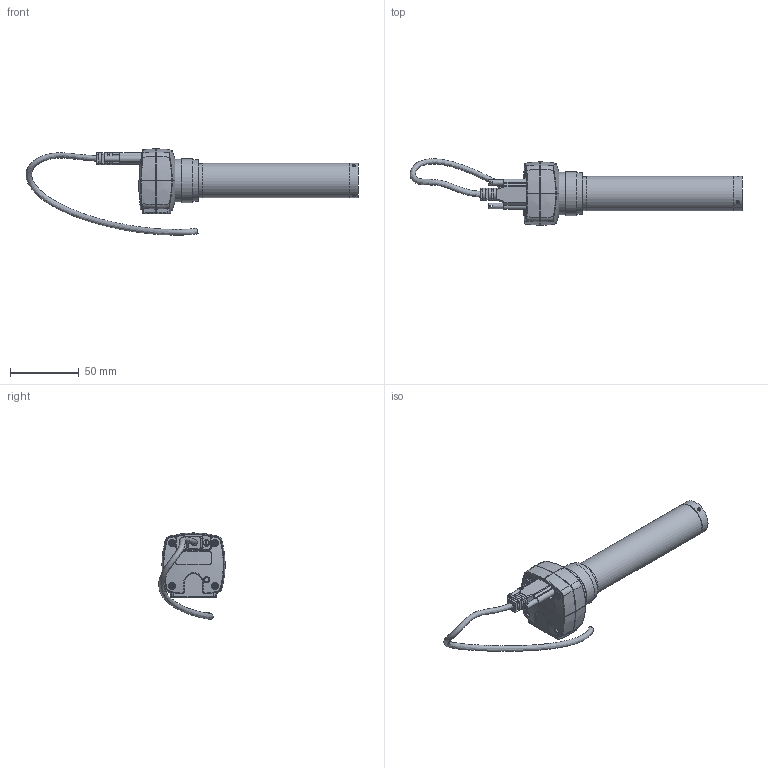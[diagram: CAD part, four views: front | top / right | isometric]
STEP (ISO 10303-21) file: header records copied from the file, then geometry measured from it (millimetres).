
FILE_DESCRIPTION(/* description */ (''),/* implementation_level */ '2;1');
FILE_NAME(/* name */ 'S:\Bureau-Technique\Vidéo\MA 730-110.stp',/* time_stamp */ '2017-03-30T08:45:59+02:00',/* author */ ('ms'),/* organization */ ('Marcel Aubert'),/* preprocessor_version */ 'ST-DEVELOPER v16.5',/* originating_system */ 'Autodesk Inventor 2017',/* authorisation */ '');
FILE_SCHEMA (('AUTOMOTIVE_DESIGN { 1 0 10303 214 3 1 1 }'));
Products named in the file (1): Pièce1
Bounding box: 241.2 x 48.29 x 62.66 mm (x, y, z)
Volume: 82463.7 mm3; surface area: 34753.2 mm2
Topology: 1 solids, 9 shells, 704 faces, 1811 edges, 1178 vertices
Faces by surface type: plane 275, cylinder 208, bspline 125, torus 41, cone 36, sphere 19
Full cylindrical faces by diameter (mm): 1.88 x4, 2 x1, 2.3 x1, 2.459 x6, 2.5 x2, 3 x1, 3.2 x1, 3.5 x4, 3.9 x2, 7.1 x2, 7.4 x2, 8.6 x3, 18 x1, 18.5 x1, 19 x1, 19.2 x1, 19.459 x1, 20 x1, 20.3 x1, 22 x2, 22.5 x1, 24.4 x1, 24.605 x2, 24.7 x1, 25 x3, 25.3 x1, 30 x1, 31 x1, 32 x1
Entity records: 39698 total; most frequent: CARTESIAN_POINT 22583, ORIENTED_EDGE 3380, DIRECTION 3378, EDGE_CURVE 1690, AXIS2_PLACEMENT_3D 1386, VERTEX_POINT 1143, EDGE_LOOP 853, STYLED_ITEM 705
